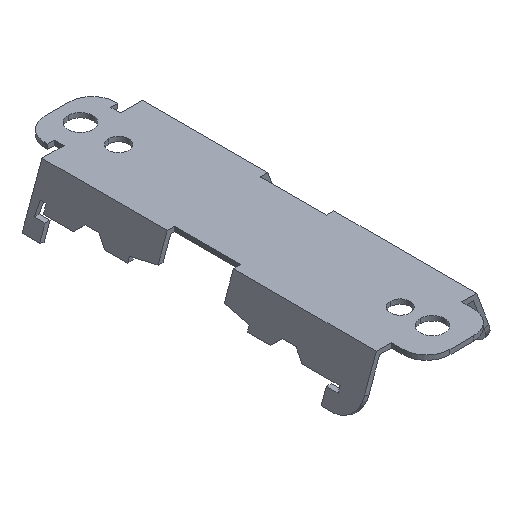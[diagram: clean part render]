
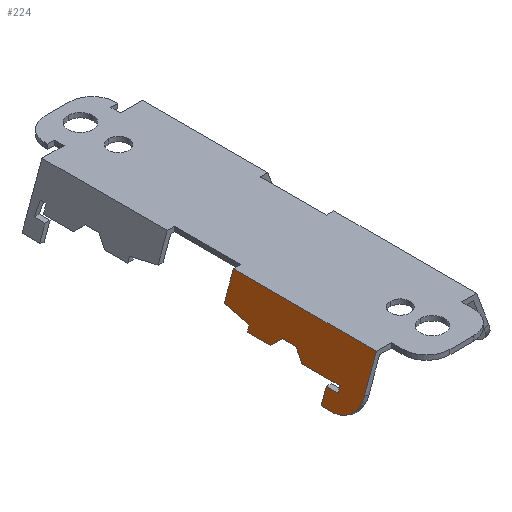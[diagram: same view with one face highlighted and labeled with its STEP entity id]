
A CAD part, isometric view. The second image highlights one B-rep face of the part: STEP entity #224.
In plain terms, the highlighted planar face has unit normal (-0.94, 0, 0.342).
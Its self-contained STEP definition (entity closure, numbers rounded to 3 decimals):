
#59 = CARTESIAN_POINT ( 'NONE',  ( -21.4, -10.35, 2. ) ) ;
#65 = CARTESIAN_POINT ( 'NONE',  ( -27.697, -56.25, -15.3 ) ) ;
#67 = CARTESIAN_POINT ( 'NONE',  ( -26.86, -44.934, -13. ) ) ;
#68 = CARTESIAN_POINT ( 'NONE',  ( -26.86, -61.25, -13. ) ) ;
#72 = CARTESIAN_POINT ( 'NONE',  ( -29.909, -61.25, -21.376 ) ) ;
#224 = ADVANCED_FACE ( 'NONE', ( #958 ), #1725, .F. ) ;
#446 = AXIS2_PLACEMENT_3D ( 'NONE', #2791, #2792, #2793 ) ;
#550 = CARTESIAN_POINT ( 'NONE',  ( -21.4, -71.25, 2. ) ) ;
#551 = CARTESIAN_POINT ( 'NONE',  ( -26.488, -71.25, -11.979 ) ) ;
#558 = CARTESIAN_POINT ( 'NONE',  ( -25.519, -41.25, -9.316 ) ) ;
#560 = CARTESIAN_POINT ( 'NONE',  ( -25.519, -35.25, -9.316 ) ) ;
#561 = CARTESIAN_POINT ( 'NONE',  ( -26.065, -21.75, -10.816 ) ) ;
#562 = CARTESIAN_POINT ( 'NONE',  ( -25.333, -10.35, -8.806 ) ) ;
#563 = CARTESIAN_POINT ( 'NONE',  ( -26.86, -21.75, -13. ) ) ;
#565 = CARTESIAN_POINT ( 'NONE',  ( -27.697, -61.25, -15.3 ) ) ;
#566 = CARTESIAN_POINT ( 'NONE',  ( -26.86, -31.566, -13. ) ) ;
#568 = CARTESIAN_POINT ( 'NONE',  ( -29.909, -56.25, -21.376 ) ) ;
#616 = LINE ( 'NONE', #2848, #619 ) ;
#619 = VECTOR ( 'NONE', #2849, 1000. ) ;
#626 = LINE ( 'NONE', #2858, #629 ) ;
#629 = VECTOR ( 'NONE', #2859, 1000. ) ;
#857 = VERTEX_POINT ( 'NONE', #59 ) ;
#867 = VERTEX_POINT ( 'NONE', #65 ) ;
#869 = VERTEX_POINT ( 'NONE', #67 ) ;
#870 = VERTEX_POINT ( 'NONE', #68 ) ;
#958 = FACE_OUTER_BOUND ( 'NONE', #2687, .T. ) ;
#1149 = VERTEX_POINT ( 'NONE', #72 ) ;
#1269 = AXIS2_PLACEMENT_3D ( 'NONE', #1726, #1731, #1732 ) ;
#1420 = EDGE_CURVE ( 'NONE', #1149, #2639, #2422, .T. ) ;
#1421 = EDGE_CURVE ( 'NONE', #2631, #2634, #2424, .T. ) ;
#1434 = EDGE_CURVE ( 'NONE', #2633, #2631, #2450, .T. ) ;
#1436 = EDGE_CURVE ( 'NONE', #857, #2633, #2454, .T. ) ;
#1438 = EDGE_CURVE ( 'NONE', #2637, #2629, #2458, .T. ) ;
#1440 = EDGE_CURVE ( 'NONE', #870, #2636, #2430, .T. ) ;
#1442 = EDGE_CURVE ( 'NONE', #2634, #2637, #2466, .T. ) ;
#1445 = EDGE_CURVE ( 'NONE', #2626, #869, #2470, .T. ) ;
#1448 = EDGE_CURVE ( 'NONE', #2632, #2630, #2478, .T. ) ;
#1449 = EDGE_CURVE ( 'NONE', #2630, #857, #2479, .T. ) ;
#1450 = EDGE_CURVE ( 'NONE', #1149, #2632, #2481, .T. ) ;
#1451 = EDGE_CURVE ( 'NONE', #2629, #2626, #2483, .T. ) ;
#1452 = EDGE_CURVE ( 'NONE', #2636, #867, #2484, .T. ) ;
#1479 = EDGE_CURVE ( 'NONE', #869, #870, #616, .T. ) ;
#1484 = EDGE_CURVE ( 'NONE', #867, #2639, #626, .T. ) ;
#1578 = ORIENTED_EDGE ( 'NONE', *, *, #1442, .T. ) ;
#1582 = ORIENTED_EDGE ( 'NONE', *, *, #1421, .T. ) ;
#1591 = ORIENTED_EDGE ( 'NONE', *, *, #1434, .T. ) ;
#1592 = ORIENTED_EDGE ( 'NONE', *, *, #1436, .T. ) ;
#1593 = ORIENTED_EDGE ( 'NONE', *, *, #1449, .T. ) ;
#1594 = ORIENTED_EDGE ( 'NONE', *, *, #1448, .T. ) ;
#1595 = ORIENTED_EDGE ( 'NONE', *, *, #1450, .T. ) ;
#1596 = ORIENTED_EDGE ( 'NONE', *, *, #1420, .F. ) ;
#1725 = PLANE ( 'NONE',  #1269 ) ;
#1726 = CARTESIAN_POINT ( 'NONE',  ( -21.4, -86.25, 2. ) ) ;
#1731 = DIRECTION ( 'NONE',  ( 0.94, 0., -0.342 ) ) ;
#1732 = DIRECTION ( 'NONE',  ( 0.342, 0., 0.94 ) ) ;
#2060 = CARTESIAN_POINT ( 'NONE',  ( -29.909, -86.25, -21.376 ) ) ;
#2061 = DIRECTION ( 'NONE',  ( 0., 1., 0. ) ) ;
#2062 = CARTESIAN_POINT ( 'NONE',  ( -26.555, -21.75, -12.161 ) ) ;
#2063 = CARTESIAN_POINT ( 'NONE',  ( -27.257, -61.25, -14.09 ) ) ;
#2064 = DIRECTION ( 'NONE',  ( -0.342, 0., -0.94 ) ) ;
#2422 = LINE ( 'NONE', #2060, #2425 ) ;
#2424 = LINE ( 'NONE', #2062, #2427 ) ;
#2425 = VECTOR ( 'NONE', #2061, 1000. ) ;
#2427 = VECTOR ( 'NONE', #2064, 1000. ) ;
#2430 = LINE ( 'NONE', #2063, #2465 ) ;
#2450 = LINE ( 'NONE', #2756, #2453 ) ;
#2453 = VECTOR ( 'NONE', #2757, 1000. ) ;
#2454 = LINE ( 'NONE', #2760, #2457 ) ;
#2457 = VECTOR ( 'NONE', #2761, 1000. ) ;
#2458 = LINE ( 'NONE', #2764, #2461 ) ;
#2461 = VECTOR ( 'NONE', #2765, 1000. ) ;
#2465 = VECTOR ( 'NONE', #2769, 1000. ) ;
#2466 = LINE ( 'NONE', #2772, #2469 ) ;
#2469 = VECTOR ( 'NONE', #2773, 1000. ) ;
#2470 = LINE ( 'NONE', #2767, #2475 ) ;
#2475 = VECTOR ( 'NONE', #2779, 1000. ) ;
#2478 = LINE ( 'NONE', #2778, #2480 ) ;
#2479 = LINE ( 'NONE', #2787, #2482 ) ;
#2480 = VECTOR ( 'NONE', #2775, 1000. ) ;
#2481 = CIRCLE ( 'NONE', #446, 10. ) ;
#2482 = VECTOR ( 'NONE', #2788, 1000. ) ;
#2483 = LINE ( 'NONE', #2782, #2485 ) ;
#2484 = LINE ( 'NONE', #2794, #2487 ) ;
#2485 = VECTOR ( 'NONE', #2783, 1000. ) ;
#2487 = VECTOR ( 'NONE', #2795, 1000. ) ;
#2626 = VERTEX_POINT ( 'NONE', #558 ) ;
#2629 = VERTEX_POINT ( 'NONE', #560 ) ;
#2630 = VERTEX_POINT ( 'NONE', #550 ) ;
#2631 = VERTEX_POINT ( 'NONE', #561 ) ;
#2632 = VERTEX_POINT ( 'NONE', #551 ) ;
#2633 = VERTEX_POINT ( 'NONE', #562 ) ;
#2634 = VERTEX_POINT ( 'NONE', #563 ) ;
#2636 = VERTEX_POINT ( 'NONE', #565 ) ;
#2637 = VERTEX_POINT ( 'NONE', #566 ) ;
#2639 = VERTEX_POINT ( 'NONE', #568 ) ;
#2687 = EDGE_LOOP ( 'NONE', ( #1596, #1595, #1594, #1593, #1592, #1591, #1582, #1578, #2740, #2739, #2738, #2737, #2736, #2735, #2734 ) ) ;
#2734 = ORIENTED_EDGE ( 'NONE', *, *, #1484, .T. ) ;
#2735 = ORIENTED_EDGE ( 'NONE', *, *, #1452, .T. ) ;
#2736 = ORIENTED_EDGE ( 'NONE', *, *, #1440, .T. ) ;
#2737 = ORIENTED_EDGE ( 'NONE', *, *, #1479, .T. ) ;
#2738 = ORIENTED_EDGE ( 'NONE', *, *, #1445, .T. ) ;
#2739 = ORIENTED_EDGE ( 'NONE', *, *, #1451, .T. ) ;
#2740 = ORIENTED_EDGE ( 'NONE', *, *, #1438, .T. ) ;
#2756 = CARTESIAN_POINT ( 'NONE',  ( -25.353, -10.655, -8.86 ) ) ;
#2757 = DIRECTION ( 'NONE',  ( -0.063, -0.983, -0.173 ) ) ;
#2760 = CARTESIAN_POINT ( 'NONE',  ( -23.078, -10.35, -2.61 ) ) ;
#2761 = DIRECTION ( 'NONE',  ( -0.342, 0., -0.94 ) ) ;
#2764 = CARTESIAN_POINT ( 'NONE',  ( -27.071, -30.987, -13.579 ) ) ;
#2765 = DIRECTION ( 'NONE',  ( 0.249, -0.685, 0.685 ) ) ;
#2767 = CARTESIAN_POINT ( 'NONE',  ( -25.813, -42.058, -10.124 ) ) ;
#2769 = DIRECTION ( 'NONE',  ( -0.342, 0., -0.94 ) ) ;
#2772 = CARTESIAN_POINT ( 'NONE',  ( -26.86, -21.75, -13. ) ) ;
#2773 = DIRECTION ( 'NONE',  ( 0., -1., 0. ) ) ;
#2775 = DIRECTION ( 'NONE',  ( 0.342, 0., 0.94 ) ) ;
#2778 = CARTESIAN_POINT ( 'NONE',  ( -23.078, -71.25, -2.61 ) ) ;
#2779 = DIRECTION ( 'NONE',  ( -0.249, -0.685, -0.685 ) ) ;
#2782 = CARTESIAN_POINT ( 'NONE',  ( -25.519, -35.25, -9.316 ) ) ;
#2783 = DIRECTION ( 'NONE',  ( 0., -1., 0. ) ) ;
#2787 = CARTESIAN_POINT ( 'NONE',  ( -21.4, -86.25, 2. ) ) ;
#2788 = DIRECTION ( 'NONE',  ( 0., 1., 0. ) ) ;
#2791 = CARTESIAN_POINT ( 'NONE',  ( -26.488, -61.25, -11.979 ) ) ;
#2792 = DIRECTION ( 'NONE',  ( -0.94, 0., 0.342 ) ) ;
#2793 = DIRECTION ( 'NONE',  ( -0.342, 0., -0.94 ) ) ;
#2794 = CARTESIAN_POINT ( 'NONE',  ( -27.697, -61.25, -15.3 ) ) ;
#2795 = DIRECTION ( 'NONE',  ( 0., 1., 0. ) ) ;
#2848 = CARTESIAN_POINT ( 'NONE',  ( -26.86, -44.934, -13. ) ) ;
#2849 = DIRECTION ( 'NONE',  ( 0., -1., 0. ) ) ;
#2858 = CARTESIAN_POINT ( 'NONE',  ( -27.996, -56.25, -16.121 ) ) ;
#2859 = DIRECTION ( 'NONE',  ( -0.342, 0., -0.94 ) ) ;
